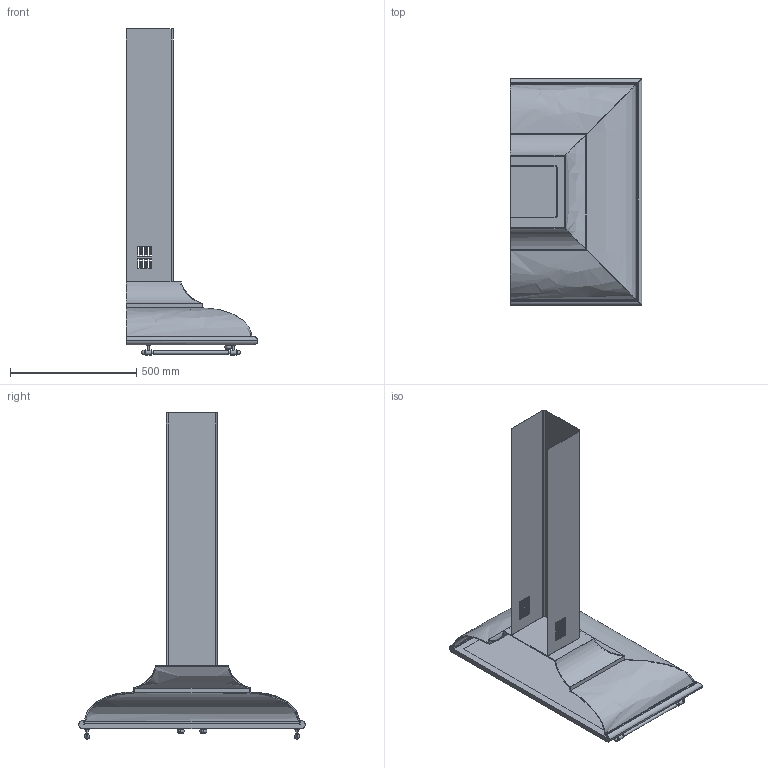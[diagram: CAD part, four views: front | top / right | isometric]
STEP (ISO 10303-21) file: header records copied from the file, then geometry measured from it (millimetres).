
FILE_DESCRIPTION(('CATIA V5 STEP Exchange'),'2;1');
FILE_NAME('\\sr02\Apell\Disegni\DISEGNI\SMEG\CAPPE\KC19AOE\Assiemi\BIM\KC19AOE.stp','2018-02-12T15:19:20+00:00',('none'),('none'),'CATIA Version 5-6 Release 2014','CATIA V5 STEP AP203','none');
FILE_SCHEMA(('CONFIG_CONTROL_DESIGN'));
Length unit declared in the file: millimetre
Products named in the file (1): KC19
Bounding box: 520 x 895 x 1289.28 mm (x, y, z)
Volume: 7542855.6 mm3; surface area: 4229792.4 mm2
Topology: 13 solids, 13 shells, 671 faces, 1779 edges, 1170 vertices
Faces by surface type: plane 397, cylinder 210, bspline 24, revolution 24, extrusion 8, torus 8
Entity records: 22997 total; most frequent: CARTESIAN_POINT 7702, ORIENTED_EDGE 3522, DIRECTION 2345, EDGE_CURVE 1761, VERTEX_POINT 1170, VECTOR 1099, LINE 1091, AXIS2_PLACEMENT_3D 809
